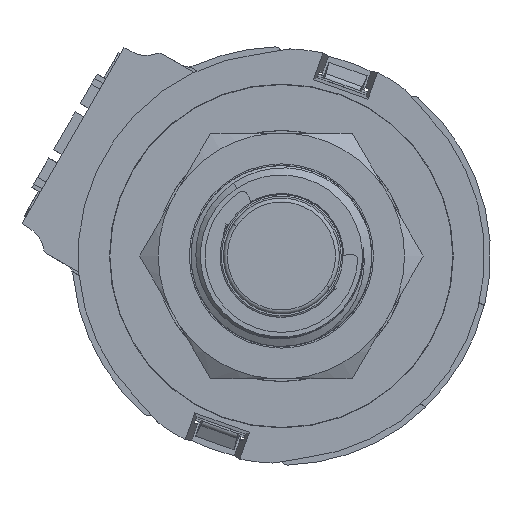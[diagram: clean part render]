
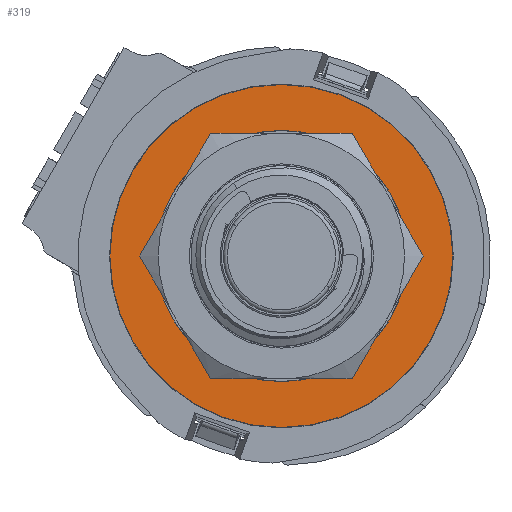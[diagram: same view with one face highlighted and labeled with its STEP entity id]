
A CAD part, front view. The second image highlights one B-rep face of the part: STEP entity #319.
In plain terms, the highlighted planar face has unit normal (0, -1, 0).
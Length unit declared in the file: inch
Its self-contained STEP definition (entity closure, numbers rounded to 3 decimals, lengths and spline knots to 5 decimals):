
#9 = EDGE_CURVE ( 'NONE', #46306, #46305, #8898, .T. ) ;
#15 = EDGE_CURVE ( 'NONE', #46308, #46307, #8903, .T. ) ;
#319 = ADVANCED_FACE ( 'NONE', ( #12987, #12993 ), #13748, .T. ) ;
#351 = EDGE_CURVE ( 'NONE', #46305, #46306, #9129, .T. ) ;
#352 = EDGE_CURVE ( 'NONE', #46307, #46308, #9130, .T. ) ;
#986 = EDGE_LOOP ( 'NONE', ( #1149, #1151 ) ) ;
#987 = EDGE_LOOP ( 'NONE', ( #1148, #1153 ) ) ;
#1148 = ORIENTED_EDGE ( 'NONE', *, *, #352, .F. ) ;
#1149 = ORIENTED_EDGE ( 'NONE', *, *, #351, .T. ) ;
#1151 = ORIENTED_EDGE ( 'NONE', *, *, #9, .T. ) ;
#1153 = ORIENTED_EDGE ( 'NONE', *, *, #15, .F. ) ;
#8898 = CIRCLE ( 'NONE', #41492, 0.34913 ) ;
#8903 = CIRCLE ( 'NONE', #41487, 0.25587 ) ;
#9129 = CIRCLE ( 'NONE', #13023, 0.34913 ) ;
#9130 = CIRCLE ( 'NONE', #13022, 0.25587 ) ;
#10135 = CARTESIAN_POINT ( 'NONE',  ( 0., -0.05, 0. ) ) ;
#10142 = DIRECTION ( 'NONE',  ( 0., -1., 0. ) ) ;
#10143 = DIRECTION ( 'NONE',  ( 0., 0., -1. ) ) ;
#10159 = CARTESIAN_POINT ( 'NONE',  ( 0., -0.05, 0. ) ) ;
#10160 = DIRECTION ( 'NONE',  ( 0., -1., 0. ) ) ;
#10161 = DIRECTION ( 'NONE',  ( 0., 0., -1. ) ) ;
#12987 = FACE_OUTER_BOUND ( 'NONE', #986, .T. ) ;
#12993 = FACE_BOUND ( 'NONE', #987, .T. ) ;
#12996 = AXIS2_PLACEMENT_3D ( 'NONE', #13749, #13750, #13751 ) ;
#13022 = AXIS2_PLACEMENT_3D ( 'NONE', #13868, #13869, #13870 ) ;
#13023 = AXIS2_PLACEMENT_3D ( 'NONE', #13865, #13866, #13867 ) ;
#13748 = PLANE ( 'NONE',  #12996 ) ;
#13749 = CARTESIAN_POINT ( 'NONE',  ( 0., -0.05, 0. ) ) ;
#13750 = DIRECTION ( 'NONE',  ( 0., -1., 0. ) ) ;
#13751 = DIRECTION ( 'NONE',  ( 0., 0., -1. ) ) ;
#13865 = CARTESIAN_POINT ( 'NONE',  ( 0., -0.05, 0. ) ) ;
#13866 = DIRECTION ( 'NONE',  ( 0., -1., 0. ) ) ;
#13867 = DIRECTION ( 'NONE',  ( 0., 0., -1. ) ) ;
#13868 = CARTESIAN_POINT ( 'NONE',  ( 0., -0.05, 0. ) ) ;
#13869 = DIRECTION ( 'NONE',  ( 0., -1., 0. ) ) ;
#13870 = DIRECTION ( 'NONE',  ( 0., 0., -1. ) ) ;
#41487 = AXIS2_PLACEMENT_3D ( 'NONE', #10159, #10160, #10161 ) ;
#41492 = AXIS2_PLACEMENT_3D ( 'NONE', #10135, #10142, #10143 ) ;
#45956 = CARTESIAN_POINT ( 'NONE',  ( 0., -0.05, -0.34913 ) ) ;
#45957 = CARTESIAN_POINT ( 'NONE',  ( 0., -0.05, 0.34913 ) ) ;
#45958 = CARTESIAN_POINT ( 'NONE',  ( 0., -0.05, -0.25587 ) ) ;
#45959 = CARTESIAN_POINT ( 'NONE',  ( 0., -0.05, 0.25587 ) ) ;
#46305 = VERTEX_POINT ( 'NONE', #45956 ) ;
#46306 = VERTEX_POINT ( 'NONE', #45957 ) ;
#46307 = VERTEX_POINT ( 'NONE', #45958 ) ;
#46308 = VERTEX_POINT ( 'NONE', #45959 ) ;
